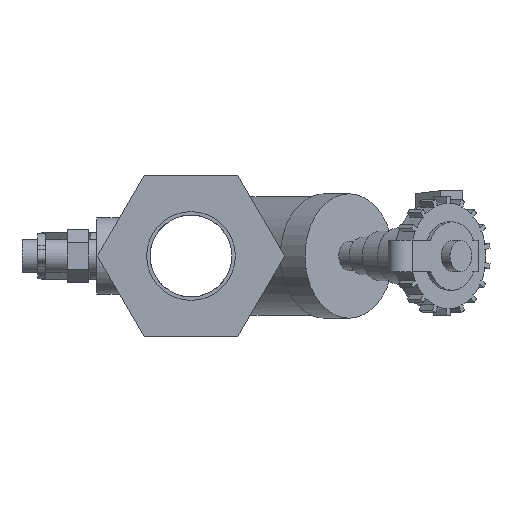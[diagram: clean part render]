
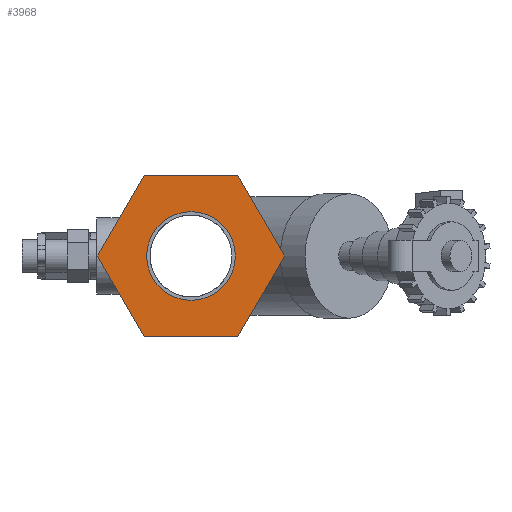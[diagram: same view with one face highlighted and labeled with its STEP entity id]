
A CAD part, left-side view. The second image highlights one B-rep face of the part: STEP entity #3968.
In plain terms, the highlighted planar face has unit normal (-1, 0, 0).
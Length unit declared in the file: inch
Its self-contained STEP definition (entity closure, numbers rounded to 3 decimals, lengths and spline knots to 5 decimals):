
#58=FACE_BOUND('',#435,.T.);
#210=FACE_OUTER_BOUND('',#434,.T.);
#434=EDGE_LOOP('',(#2704,#2705,#2706,#2707,#2708,#2709));
#435=EDGE_LOOP('',(#2710));
#683=LINE('',#6496,#1035);
#684=LINE('',#6498,#1036);
#685=LINE('',#6500,#1037);
#686=LINE('',#6502,#1038);
#687=LINE('',#6504,#1039);
#688=LINE('',#6505,#1040);
#1035=VECTOR('',#4796,0.3937);
#1036=VECTOR('',#4797,0.3937);
#1037=VECTOR('',#4798,0.3937);
#1038=VECTOR('',#4799,0.3937);
#1039=VECTOR('',#4800,0.3937);
#1040=VECTOR('',#4801,0.3937);
#1376=CIRCLE('',#4251,0.7125);
#1619=VERTEX_POINT('',#6494);
#1620=VERTEX_POINT('',#6495);
#1621=VERTEX_POINT('',#6497);
#1622=VERTEX_POINT('',#6499);
#1623=VERTEX_POINT('',#6501);
#1624=VERTEX_POINT('',#6503);
#1625=VERTEX_POINT('',#6506);
#2043=EDGE_CURVE('',#1619,#1620,#683,.T.);
#2044=EDGE_CURVE('',#1620,#1621,#684,.T.);
#2045=EDGE_CURVE('',#1621,#1622,#685,.T.);
#2046=EDGE_CURVE('',#1622,#1623,#686,.T.);
#2047=EDGE_CURVE('',#1623,#1624,#687,.T.);
#2048=EDGE_CURVE('',#1624,#1619,#688,.T.);
#2049=EDGE_CURVE('',#1625,#1625,#1376,.T.);
#2704=ORIENTED_EDGE('',*,*,#2043,.T.);
#2705=ORIENTED_EDGE('',*,*,#2044,.T.);
#2706=ORIENTED_EDGE('',*,*,#2045,.T.);
#2707=ORIENTED_EDGE('',*,*,#2046,.T.);
#2708=ORIENTED_EDGE('',*,*,#2047,.T.);
#2709=ORIENTED_EDGE('',*,*,#2048,.T.);
#2710=ORIENTED_EDGE('',*,*,#2049,.F.);
#3702=PLANE('',#4250);
#3968=ADVANCED_FACE('',(#210,#58),#3702,.T.);
#4250=AXIS2_PLACEMENT_3D('',#6493,#4794,#4795);
#4251=AXIS2_PLACEMENT_3D('',#6507,#4802,#4803);
#4794=DIRECTION('center_axis',(-1.,0.,0.));
#4795=DIRECTION('ref_axis',(0.,0.,1.));
#4796=DIRECTION('',(0.,1.,0.));
#4797=DIRECTION('',(0.,0.5,-0.866));
#4798=DIRECTION('',(0.,-0.5,-0.866));
#4799=DIRECTION('',(0.,-1.,0.));
#4800=DIRECTION('',(0.,-0.5,0.866));
#4801=DIRECTION('',(0.,0.5,0.866));
#4802=DIRECTION('center_axis',(-1.,0.,0.));
#4803=DIRECTION('ref_axis',(0.,1.,0.));
#6493=CARTESIAN_POINT('Origin',(-3.84,0.,0.));
#6494=CARTESIAN_POINT('',(-3.84,-0.75056,1.3));
#6495=CARTESIAN_POINT('',(-3.84,0.75056,1.3));
#6496=CARTESIAN_POINT('',(-3.84,0.75056,1.3));
#6497=CARTESIAN_POINT('',(-3.84,1.50111,0.));
#6498=CARTESIAN_POINT('',(-3.84,1.50111,0.));
#6499=CARTESIAN_POINT('',(-3.84,0.75056,-1.3));
#6500=CARTESIAN_POINT('',(-3.84,0.75056,-1.3));
#6501=CARTESIAN_POINT('',(-3.84,-0.75056,-1.3));
#6502=CARTESIAN_POINT('',(-3.84,-0.75056,-1.3));
#6503=CARTESIAN_POINT('',(-3.84,-1.50111,0.));
#6504=CARTESIAN_POINT('',(-3.84,-1.50111,0.));
#6505=CARTESIAN_POINT('',(-3.84,-0.75056,1.3));
#6506=CARTESIAN_POINT('',(-3.84,-0.7125,0.));
#6507=CARTESIAN_POINT('Origin',(-3.84,0.,0.));
